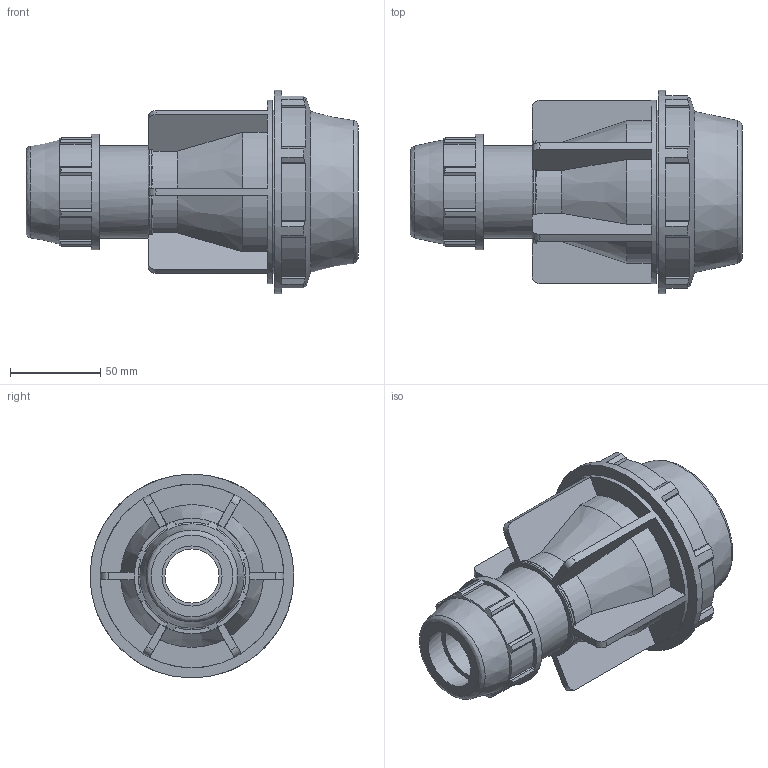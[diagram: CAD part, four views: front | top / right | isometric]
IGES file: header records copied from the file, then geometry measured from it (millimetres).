
Global section: file name: 0711M0020010.ipt; native system: Autodesk Inventor 2019; preprocessor: unknown; author: KIM; date: 20210826.124710; units: inch
Bounding box: 184 x 113.03 x 113.03 mm (x, y, z)
Volume: 471920.5 mm3; surface area: 101862.4 mm2
Topology: 1 solids, 1 shells, 218 faces, 641 edges, 432 vertices
Faces by surface type: plane 143, cylinder 45, revolution 20, cone 10
Full cylindrical faces by diameter (mm): 51.206 x1, 64.008 x1, 90.424 x1, 101.727 x1, 113.03 x1
